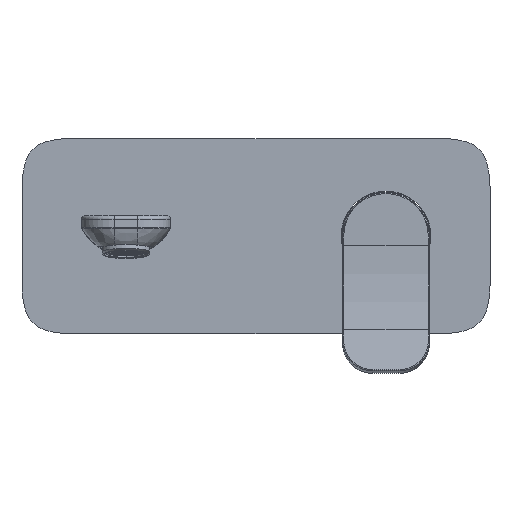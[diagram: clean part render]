
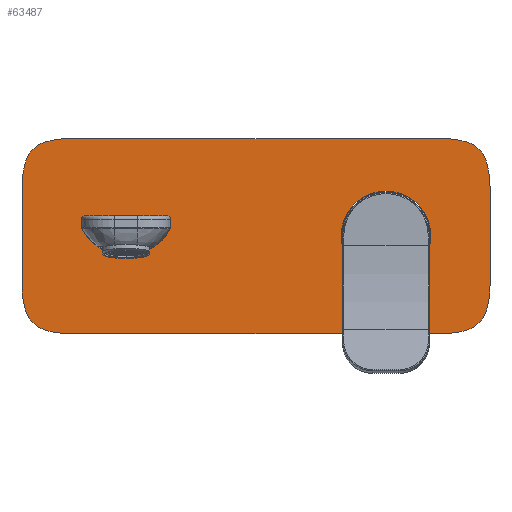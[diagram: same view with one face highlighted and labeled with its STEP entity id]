
A CAD part, top view. The second image highlights one B-rep face of the part: STEP entity #63487.
In plain terms, the highlighted planar face has unit normal (0, 0, 1).
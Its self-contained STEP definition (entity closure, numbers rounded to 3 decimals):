
#5222=CARTESIAN_POINT('',(67.,-23.,2.));
#5223=DIRECTION('',(0.,0.,-1.));
#5224=DIRECTION('',(1.,0.,0.));
#5225=AXIS2_PLACEMENT_3D('',#5222,#5223,#5224);
#5227=CARTESIAN_POINT('',(93.467,-30.467,2.));
#5228=DIRECTION('',(0.,0.,-1.));
#5229=DIRECTION('',(0.962,-0.272,0.));
#5230=AXIS2_PLACEMENT_3D('',#5227,#5228,#5229);
#5232=CARTESIAN_POINT('',(86.,-4.,2.));
#5233=DIRECTION('',(0.,0.,-1.));
#5234=DIRECTION('',(0.272,-0.962,0.));
#5235=AXIS2_PLACEMENT_3D('',#5232,#5233,#5234);
#5237=DIRECTION('',(-1.,0.,0.));
#5238=VECTOR('',#5237,172.);
#5239=CARTESIAN_POINT('',(86.,-45.,2.));
#5240=LINE('',#5239,#5238);
#5241=CARTESIAN_POINT('',(-86.,-4.,2.));
#5242=DIRECTION('',(0.,0.,-1.));
#5243=DIRECTION('',(0.,-1.,0.));
#5244=AXIS2_PLACEMENT_3D('',#5241,#5242,#5243);
#5246=CARTESIAN_POINT('',(-93.467,-30.467,2.));
#5247=DIRECTION('',(0.,0.,-1.));
#5248=DIRECTION('',(-0.272,-0.962,0.));
#5249=AXIS2_PLACEMENT_3D('',#5246,#5247,#5248);
#5251=CARTESIAN_POINT('',(-67.,-23.,2.));
#5252=DIRECTION('',(0.,0.,-1.));
#5253=DIRECTION('',(-0.962,-0.272,0.));
#5254=AXIS2_PLACEMENT_3D('',#5251,#5252,#5253);
#5256=DIRECTION('',(0.,1.,0.));
#5257=VECTOR('',#5256,46.);
#5258=CARTESIAN_POINT('',(-108.,-23.,2.));
#5259=LINE('',#5258,#5257);
#5260=CARTESIAN_POINT('',(-67.,23.,2.));
#5261=DIRECTION('',(0.,0.,-1.));
#5262=DIRECTION('',(-1.,0.,0.));
#5263=AXIS2_PLACEMENT_3D('',#5260,#5261,#5262);
#5265=CARTESIAN_POINT('',(-93.467,30.467,2.));
#5266=DIRECTION('',(0.,0.,-1.));
#5267=DIRECTION('',(-0.962,0.272,0.));
#5268=AXIS2_PLACEMENT_3D('',#5265,#5266,#5267);
#5270=CARTESIAN_POINT('',(-86.,4.,2.));
#5271=DIRECTION('',(0.,0.,-1.));
#5272=DIRECTION('',(-0.272,0.962,0.));
#5273=AXIS2_PLACEMENT_3D('',#5270,#5271,#5272);
#5275=DIRECTION('',(1.,0.,0.));
#5276=VECTOR('',#5275,172.);
#5277=CARTESIAN_POINT('',(-86.,45.,2.));
#5278=LINE('',#5277,#5276);
#5279=CARTESIAN_POINT('',(86.,4.,2.));
#5280=DIRECTION('',(0.,0.,-1.));
#5281=DIRECTION('',(0.,1.,0.));
#5282=AXIS2_PLACEMENT_3D('',#5279,#5280,#5281);
#5284=CARTESIAN_POINT('',(93.467,30.467,2.));
#5285=DIRECTION('',(0.,0.,-1.));
#5286=DIRECTION('',(0.272,0.962,0.));
#5287=AXIS2_PLACEMENT_3D('',#5284,#5285,#5286);
#5289=CARTESIAN_POINT('',(67.,23.,2.));
#5290=DIRECTION('',(0.,0.,-1.));
#5291=DIRECTION('',(0.962,0.272,0.));
#5292=AXIS2_PLACEMENT_3D('',#5289,#5290,#5291);
#5294=DIRECTION('',(0.,-1.,0.));
#5295=VECTOR('',#5294,46.);
#5296=CARTESIAN_POINT('',(108.,23.,2.));
#5297=LINE('',#5296,#5295);
#5298=CARTESIAN_POINT('',(60.,0.,2.));
#5299=DIRECTION('',(0.,0.,1.));
#5300=DIRECTION('',(0.,1.,0.));
#5301=AXIS2_PLACEMENT_3D('',#5298,#5299,#5300);
#5303=CARTESIAN_POINT('',(60.,0.,2.));
#5304=DIRECTION('',(0.,0.,1.));
#5305=DIRECTION('',(0.,-1.,0.));
#5306=AXIS2_PLACEMENT_3D('',#5303,#5304,#5305);
#5308=DIRECTION('',(0.,1.,0.));
#5309=VECTOR('',#5308,3.748);
#5310=CARTESIAN_POINT('',(-39.55,3.752,2.));
#5311=LINE('',#5310,#5309);
#5312=CARTESIAN_POINT('',(-41.05,7.5,2.));
#5313=DIRECTION('',(0.,0.,-1.));
#5314=DIRECTION('',(0.,1.,0.));
#5315=AXIS2_PLACEMENT_3D('',#5312,#5313,#5314);
#5317=DIRECTION('',(-1.,0.,0.));
#5318=VECTOR('',#5317,37.9);
#5319=CARTESIAN_POINT('',(-41.05,9.,2.));
#5320=LINE('',#5319,#5318);
#5321=CARTESIAN_POINT('',(-78.95,7.5,2.));
#5322=DIRECTION('',(0.,0.,1.));
#5323=DIRECTION('',(0.,1.,0.));
#5324=AXIS2_PLACEMENT_3D('',#5321,#5322,#5323);
#5326=DIRECTION('',(0.,-1.,0.));
#5327=VECTOR('',#5326,3.748);
#5328=CARTESIAN_POINT('',(-80.45,7.5,2.));
#5329=LINE('',#5328,#5327);
#5330=CARTESIAN_POINT('',(-78.95,3.752,2.));
#5331=DIRECTION('',(0.,0.,1.));
#5332=DIRECTION('',(-1.,0.,0.));
#5333=AXIS2_PLACEMENT_3D('',#5330,#5331,#5332);
#5335=CARTESIAN_POINT('',(-80.267,3.034,2.));
#5336=CARTESIAN_POINT('',(-78.295,-0.584,2.));
#5337=CARTESIAN_POINT('',(-72.36,-6.735,2.));
#5338=CARTESIAN_POINT('',(-60.,-10.132,2.));
#5339=CARTESIAN_POINT('',(-47.64,-6.735,2.));
#5340=CARTESIAN_POINT('',(-41.705,-0.584,2.));
#5341=CARTESIAN_POINT('',(-39.733,3.034,2.));
#5343=CARTESIAN_POINT('',(-41.05,3.752,2.));
#5344=DIRECTION('',(0.,0.,1.));
#5345=DIRECTION('',(0.878,-0.479,0.));
#5346=AXIS2_PLACEMENT_3D('',#5343,#5344,#5345);
#49124=CARTESIAN_POINT('',(86.,-45.,2.));
#49125=CARTESIAN_POINT('',(-86.,-45.,2.));
#49126=VERTEX_POINT('',#49124);
#49127=VERTEX_POINT('',#49125);
#49128=CARTESIAN_POINT('',(-86.,45.,2.));
#49129=CARTESIAN_POINT('',(86.,45.,2.));
#49130=VERTEX_POINT('',#49128);
#49131=VERTEX_POINT('',#49129);
#49132=CARTESIAN_POINT('',(108.,23.,2.));
#49133=CARTESIAN_POINT('',(108.,-23.,2.));
#49134=VERTEX_POINT('',#49132);
#49135=VERTEX_POINT('',#49133);
#49152=CARTESIAN_POINT('',(60.,20.75,2.));
#49153=CARTESIAN_POINT('',(60.,-20.75,2.));
#49154=VERTEX_POINT('',#49152);
#49155=VERTEX_POINT('',#49153);
#49160=CARTESIAN_POINT('',(106.46,-34.132,2.));
#49161=VERTEX_POINT('',#49160);
#49162=CARTESIAN_POINT('',(97.132,-43.46,2.));
#49163=VERTEX_POINT('',#49162);
#49168=CARTESIAN_POINT('',(-97.132,-43.46,2.));
#49169=VERTEX_POINT('',#49168);
#49170=CARTESIAN_POINT('',(-106.46,-34.132,2.));
#49171=VERTEX_POINT('',#49170);
#49172=CARTESIAN_POINT('',(-108.,-23.,2.));
#49173=VERTEX_POINT('',#49172);
#49174=CARTESIAN_POINT('',(-108.,23.,2.));
#49175=VERTEX_POINT('',#49174);
#49176=CARTESIAN_POINT('',(-106.46,34.132,2.));
#49177=VERTEX_POINT('',#49176);
#49178=CARTESIAN_POINT('',(-97.132,43.46,2.));
#49179=VERTEX_POINT('',#49178);
#49180=CARTESIAN_POINT('',(97.132,43.46,2.));
#49181=VERTEX_POINT('',#49180);
#49182=CARTESIAN_POINT('',(106.46,34.132,2.));
#49183=VERTEX_POINT('',#49182);
#49334=CARTESIAN_POINT('',(-39.55,3.752,2.));
#49335=CARTESIAN_POINT('',(-39.55,7.5,2.));
#49336=VERTEX_POINT('',#49334);
#49337=VERTEX_POINT('',#49335);
#49338=CARTESIAN_POINT('',(-41.05,9.,2.));
#49339=CARTESIAN_POINT('',(-78.95,9.,2.));
#49340=VERTEX_POINT('',#49338);
#49341=VERTEX_POINT('',#49339);
#49342=CARTESIAN_POINT('',(-80.45,7.5,2.));
#49343=CARTESIAN_POINT('',(-80.45,3.752,2.));
#49344=VERTEX_POINT('',#49342);
#49345=VERTEX_POINT('',#49343);
#49346=VERTEX_POINT('',#5335);
#49347=VERTEX_POINT('',#5341);
#63426=CARTESIAN_POINT('',(0.,0.,2.));
#63427=DIRECTION('',(0.,0.,-1.));
#63428=DIRECTION('',(0.,1.,0.));
#63429=AXIS2_PLACEMENT_3D('',#63426,#63427,#63428);
#63430=PLANE('',#63429);
#63432=ORIENTED_EDGE('',*,*,#63431,.T.);
#63434=ORIENTED_EDGE('',*,*,#63433,.T.);
#63436=ORIENTED_EDGE('',*,*,#63435,.T.);
#63438=ORIENTED_EDGE('',*,*,#63437,.T.);
#63440=ORIENTED_EDGE('',*,*,#63439,.T.);
#63442=ORIENTED_EDGE('',*,*,#63441,.T.);
#63444=ORIENTED_EDGE('',*,*,#63443,.T.);
#63446=ORIENTED_EDGE('',*,*,#63445,.T.);
#63448=ORIENTED_EDGE('',*,*,#63447,.T.);
#63450=ORIENTED_EDGE('',*,*,#63449,.T.);
#63452=ORIENTED_EDGE('',*,*,#63451,.T.);
#63454=ORIENTED_EDGE('',*,*,#63453,.T.);
#63456=ORIENTED_EDGE('',*,*,#63455,.T.);
#63458=ORIENTED_EDGE('',*,*,#63457,.T.);
#63460=ORIENTED_EDGE('',*,*,#63459,.T.);
#63462=ORIENTED_EDGE('',*,*,#63461,.T.);
#63463=EDGE_LOOP('',(#63432,#63434,#63436,#63438,#63440,#63442,#63444,#63446,
#63448,#63450,#63452,#63454,#63456,#63458,#63460,#63462));
#63464=FACE_OUTER_BOUND('',#63463,.F.);
#63466=ORIENTED_EDGE('',*,*,#63465,.T.);
#63468=ORIENTED_EDGE('',*,*,#63467,.T.);
#63469=EDGE_LOOP('',(#63466,#63468));
#63470=FACE_BOUND('',#63469,.F.);
#63472=ORIENTED_EDGE('',*,*,#63471,.T.);
#63474=ORIENTED_EDGE('',*,*,#63473,.F.);
#63476=ORIENTED_EDGE('',*,*,#63475,.T.);
#63478=ORIENTED_EDGE('',*,*,#63477,.T.);
#63480=ORIENTED_EDGE('',*,*,#63479,.T.);
#63481=ORIENTED_EDGE('',*,*,#63416,.T.);
#63482=ORIENTED_EDGE('',*,*,#63383,.T.);
#63484=ORIENTED_EDGE('',*,*,#63483,.T.);
#63485=EDGE_LOOP('',(#63472,#63474,#63476,#63478,#63480,#63481,#63482,#63484));
#63486=FACE_BOUND('',#63485,.F.);
#63487=ADVANCED_FACE('',(#63464,#63470,#63486),#63430,.F.);
#5226=CIRCLE('',#5225,41.);
#5231=CIRCLE('',#5230,13.5);
#5236=CIRCLE('',#5235,41.);
#5245=CIRCLE('',#5244,41.);
#5250=CIRCLE('',#5249,13.5);
#5255=CIRCLE('',#5254,41.);
#5264=CIRCLE('',#5263,41.);
#5269=CIRCLE('',#5268,13.5);
#5274=CIRCLE('',#5273,41.);
#5283=CIRCLE('',#5282,41.);
#5288=CIRCLE('',#5287,13.5);
#5293=CIRCLE('',#5292,41.);
#5302=CIRCLE('',#5301,20.75);
#5307=CIRCLE('',#5306,20.75);
#5316=CIRCLE('',#5315,1.5);
#5325=CIRCLE('',#5324,1.5);
#5334=CIRCLE('',#5333,1.5);
#5342=B_SPLINE_CURVE_WITH_KNOTS('',3,(#5335,#5336,#5337,#5338,#5339,#5340,
#5341),.UNSPECIFIED.,.F.,.F.,(4,1,1,1,4),(0.,0.25,0.5,0.75,1.),
.UNSPECIFIED.);
#5347=CIRCLE('',#5346,1.5);
#63383=EDGE_CURVE('',#49346,#49347,#5342,.T.);
#63416=EDGE_CURVE('',#49345,#49346,#5334,.T.);
#63431=EDGE_CURVE('',#49135,#49161,#5226,.T.);
#63433=EDGE_CURVE('',#49161,#49163,#5231,.T.);
#63435=EDGE_CURVE('',#49163,#49126,#5236,.T.);
#63437=EDGE_CURVE('',#49126,#49127,#5240,.T.);
#63439=EDGE_CURVE('',#49127,#49169,#5245,.T.);
#63441=EDGE_CURVE('',#49169,#49171,#5250,.T.);
#63443=EDGE_CURVE('',#49171,#49173,#5255,.T.);
#63445=EDGE_CURVE('',#49173,#49175,#5259,.T.);
#63447=EDGE_CURVE('',#49175,#49177,#5264,.T.);
#63449=EDGE_CURVE('',#49177,#49179,#5269,.T.);
#63451=EDGE_CURVE('',#49179,#49130,#5274,.T.);
#63453=EDGE_CURVE('',#49130,#49131,#5278,.T.);
#63455=EDGE_CURVE('',#49131,#49181,#5283,.T.);
#63457=EDGE_CURVE('',#49181,#49183,#5288,.T.);
#63459=EDGE_CURVE('',#49183,#49134,#5293,.T.);
#63461=EDGE_CURVE('',#49134,#49135,#5297,.T.);
#63465=EDGE_CURVE('',#49154,#49155,#5302,.T.);
#63467=EDGE_CURVE('',#49155,#49154,#5307,.T.);
#63471=EDGE_CURVE('',#49336,#49337,#5311,.T.);
#63473=EDGE_CURVE('',#49340,#49337,#5316,.T.);
#63475=EDGE_CURVE('',#49340,#49341,#5320,.T.);
#63477=EDGE_CURVE('',#49341,#49344,#5325,.T.);
#63479=EDGE_CURVE('',#49344,#49345,#5329,.T.);
#63483=EDGE_CURVE('',#49347,#49336,#5347,.T.);
